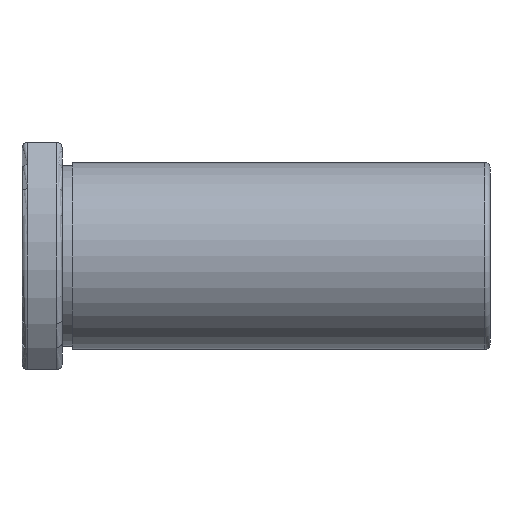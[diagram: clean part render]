
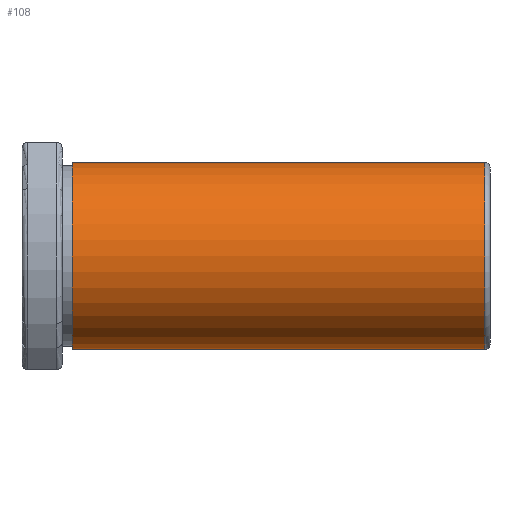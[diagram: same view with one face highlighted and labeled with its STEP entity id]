
A CAD part, front view. The second image highlights one B-rep face of the part: STEP entity #108.
In plain terms, the highlighted cylindrical face has radius 14 mm (diameter 28 mm), a full revolution.
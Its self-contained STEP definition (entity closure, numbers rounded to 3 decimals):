
#108 = ADVANCED_FACE( '', ( #246, #247 ), #248, .T. );
#246 = FACE_OUTER_BOUND( '', #393, .T. );
#247 = FACE_OUTER_BOUND( '', #394, .T. );
#248 = CYLINDRICAL_SURFACE( '', #395, 14. );
#393 = EDGE_LOOP( '', ( #609 ) );
#394 = EDGE_LOOP( '', ( #610 ) );
#395 = AXIS2_PLACEMENT_3D( '', #611, #612, #613 );
#609 = ORIENTED_EDGE( '', *, *, #739, .F. );
#610 = ORIENTED_EDGE( '', *, *, #732, .T. );
#611 = CARTESIAN_POINT( '', ( 21.4, 0., 0. ) );
#612 = DIRECTION( '', ( -1., 0., 0. ) );
#613 = DIRECTION( '', ( 0., 1., 0. ) );
#732 = EDGE_CURVE( '', #852, #852, #853, .F. );
#739 = EDGE_CURVE( '', #862, #862, #863, .F. );
#852 = VERTEX_POINT( '', #1023 );
#853 = CIRCLE( '', #1024, 14. );
#862 = VERTEX_POINT( '', #1047 );
#863 = CIRCLE( '', #1048, 14. );
#1023 = CARTESIAN_POINT( '', ( 69.2, 14., 0. ) );
#1024 = AXIS2_PLACEMENT_3D( '', #1177, #1178, #1179 );
#1047 = CARTESIAN_POINT( '', ( 7.5, 0., -14. ) );
#1048 = AXIS2_PLACEMENT_3D( '', #1186, #1187, #1188 );
#1177 = CARTESIAN_POINT( '', ( 69.2, 0., 0. ) );
#1178 = DIRECTION( '', ( 1., 0., 0. ) );
#1179 = DIRECTION( '', ( 0., 0., -1. ) );
#1186 = CARTESIAN_POINT( '', ( 7.5, 0., 0. ) );
#1187 = DIRECTION( '', ( 1., 0., 0. ) );
#1188 = DIRECTION( '', ( 0., 0., -1. ) );
